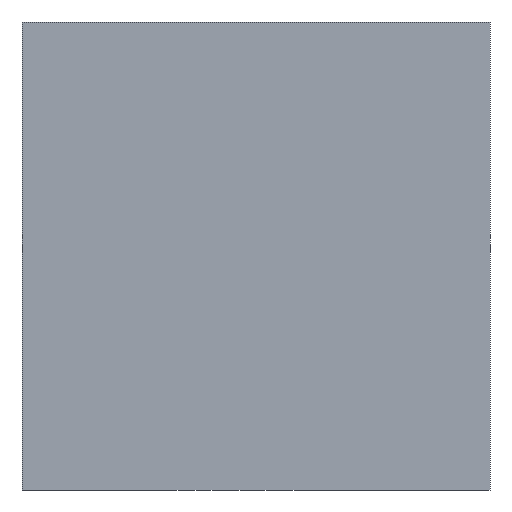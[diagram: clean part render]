
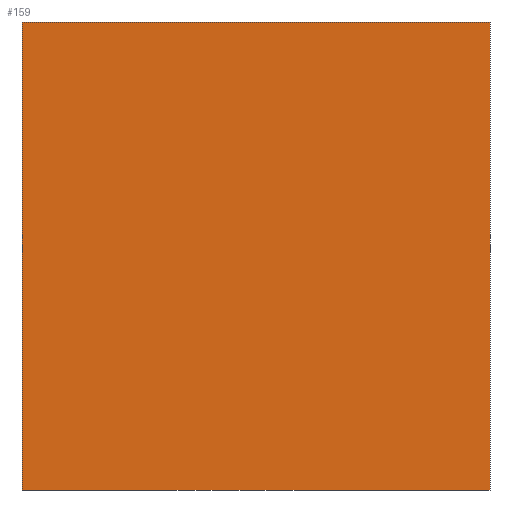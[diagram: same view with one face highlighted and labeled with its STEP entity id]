
A CAD part, left-side view. The second image highlights one B-rep face of the part: STEP entity #159.
In plain terms, the highlighted planar face has unit normal (-1, 0, 0).
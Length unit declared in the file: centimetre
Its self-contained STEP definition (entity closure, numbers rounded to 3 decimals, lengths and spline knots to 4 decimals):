
#1 = LINE ( 'NONE', #130, #60 ) ;
#5 = VECTOR ( 'NONE', #239, 100. ) ;
#10 = VECTOR ( 'NONE', #348, 100. ) ;
#14 = DIRECTION ( 'NONE',  ( 0., 0., -1. ) ) ;
#18 = CARTESIAN_POINT ( 'NONE',  ( 0., 1000., 1000. ) ) ;
#26 = EDGE_CURVE ( 'NONE', #401, #124, #240, .T. ) ;
#30 = LINE ( 'NONE', #286, #10 ) ;
#60 = VECTOR ( 'NONE', #128, 100. ) ;
#70 = EDGE_CURVE ( 'NONE', #182, #401, #190, .T. ) ;
#80 = VERTEX_POINT ( 'NONE', #153 ) ;
#106 = ORIENTED_EDGE ( 'NONE', *, *, #292, .F. ) ;
#111 = VECTOR ( 'NONE', #332, 100. ) ;
#112 = CARTESIAN_POINT ( 'NONE',  ( 0., 1000., 0. ) ) ;
#118 = ORIENTED_EDGE ( 'NONE', *, *, #26, .T. ) ;
#124 = VERTEX_POINT ( 'NONE', #307 ) ;
#128 = DIRECTION ( 'NONE',  ( 0., 0., -1. ) ) ;
#130 = CARTESIAN_POINT ( 'NONE',  ( 0., 0., 1000. ) ) ;
#153 = CARTESIAN_POINT ( 'NONE',  ( 0., 0., 1000. ) ) ;
#159 = ADVANCED_FACE ( 'NONE', ( #176 ), #298, .F. ) ;
#166 = CARTESIAN_POINT ( 'NONE',  ( 0., 1000., 1000. ) ) ;
#176 = FACE_OUTER_BOUND ( 'NONE', #275, .T. ) ;
#182 = VERTEX_POINT ( 'NONE', #166 ) ;
#190 = LINE ( 'NONE', #280, #111 ) ;
#195 = AXIS2_PLACEMENT_3D ( 'NONE', #18, #365, #14 ) ;
#239 = DIRECTION ( 'NONE',  ( 0., -1., 0. ) ) ;
#240 = LINE ( 'NONE', #112, #5 ) ;
#247 = ORIENTED_EDGE ( 'NONE', *, *, #70, .T. ) ;
#265 = EDGE_CURVE ( 'NONE', #182, #80, #30, .T. ) ;
#275 = EDGE_LOOP ( 'NONE', ( #118, #106, #376, #247 ) ) ;
#280 = CARTESIAN_POINT ( 'NONE',  ( 0., 1000., 1000. ) ) ;
#286 = CARTESIAN_POINT ( 'NONE',  ( 0., 1000., 1000. ) ) ;
#292 = EDGE_CURVE ( 'NONE', #80, #124, #1, .T. ) ;
#298 = PLANE ( 'NONE',  #195 ) ;
#307 = CARTESIAN_POINT ( 'NONE',  ( 0., 0., 0. ) ) ;
#332 = DIRECTION ( 'NONE',  ( 0., 0., -1. ) ) ;
#348 = DIRECTION ( 'NONE',  ( 0., -1., 0. ) ) ;
#357 = CARTESIAN_POINT ( 'NONE',  ( 0., 1000., 0. ) ) ;
#365 = DIRECTION ( 'NONE',  ( 1., 0., 0. ) ) ;
#376 = ORIENTED_EDGE ( 'NONE', *, *, #265, .F. ) ;
#401 = VERTEX_POINT ( 'NONE', #357 ) ;
